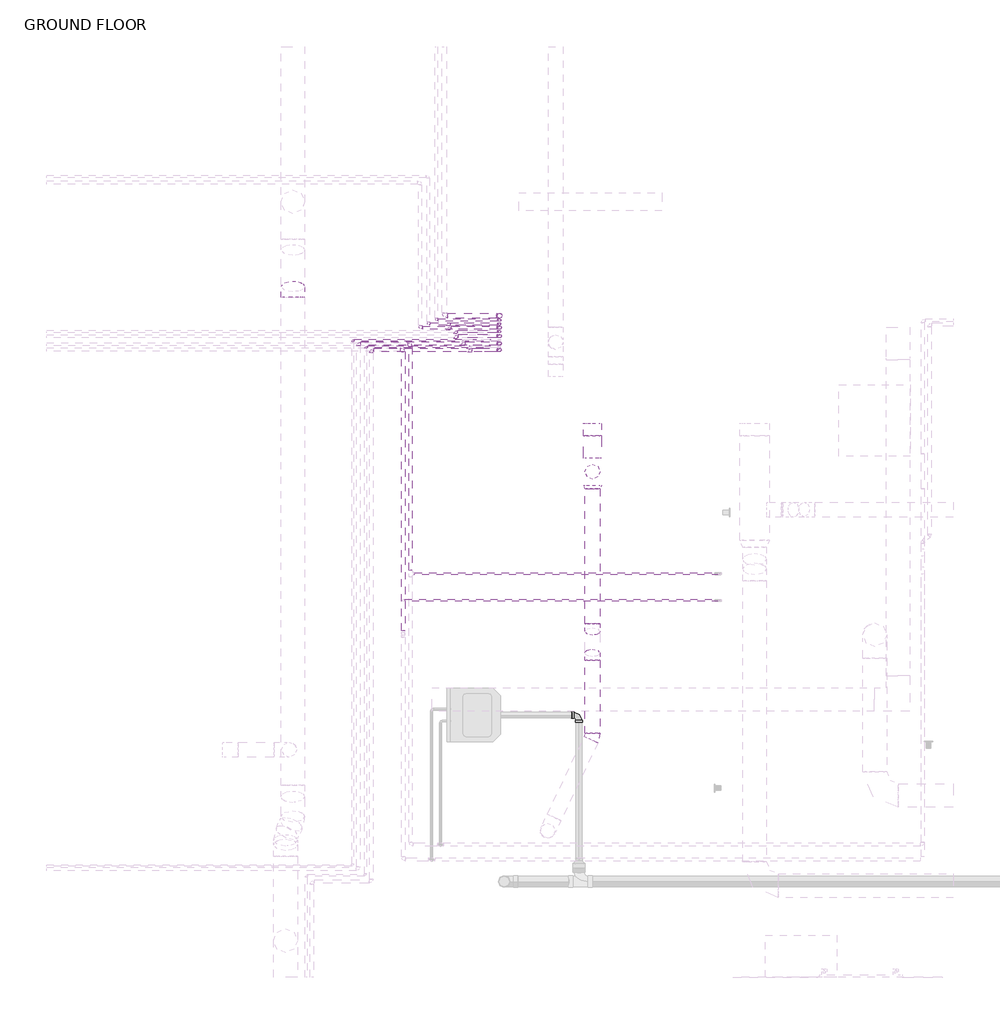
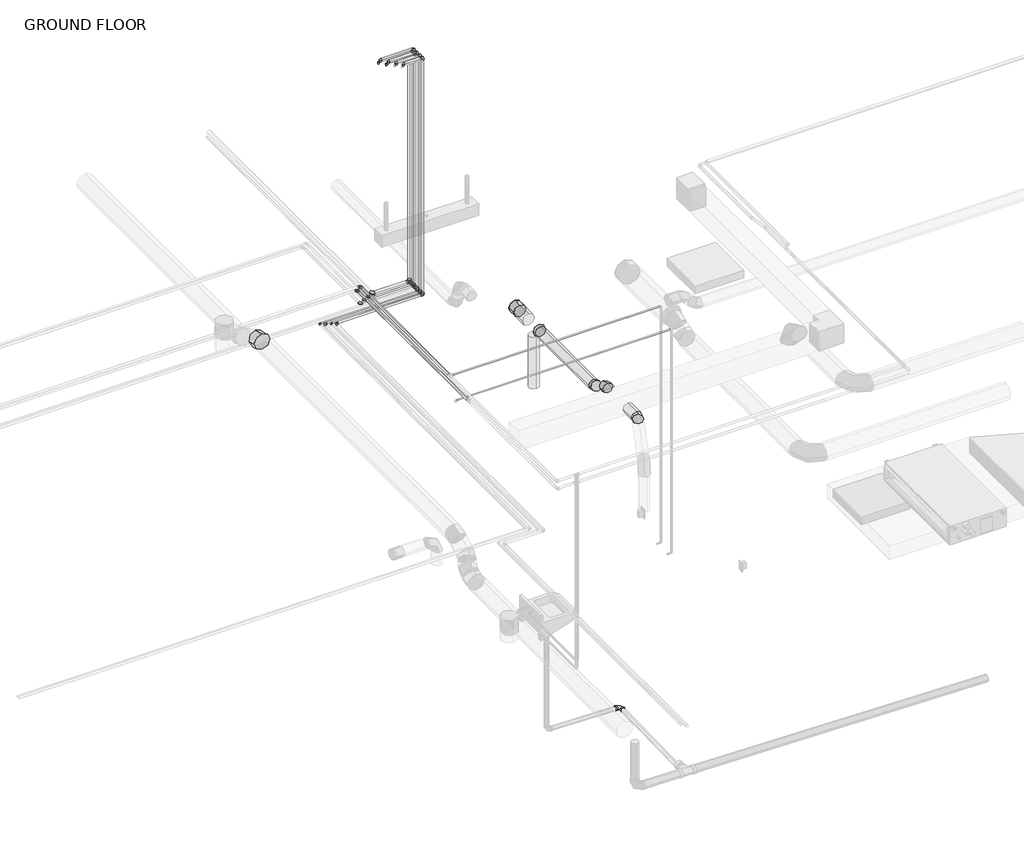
# One storey, part 13 of 21: 33 pipe fittings, 26 pipe segments, 6 duct fittings, 4 duct segments.
"""IFC4 building model written with IfcOpenShell, lengths in millimetres."""

from ifc_helpers import new_model, si_unit, point, frame, frame_2d, origin, place, context, project, spatial, circle_curve, trimmed, segment, composite_curve, outline, extrude, transform, mapped, element, save
from components import round_elbow_1_d_e295ca55, round_elbow_1_d_3986cbc1, round_elbow_1_d_d064e566, round_takeoff_standard_0a2b6d05, round_transition_angle_45_degree_fe5c3047, bend_pvc_sch_40_dwv_standard_3c02e330, elbow_generic_standard_c06ac706, elbow_generic_standard_738589b0, elbow_generic_standard_a088f956, elbow_generic_standard_371413ad

model = new_model("IFC4")

# Units and contexts
model_context = context("Model", 3, world=origin())
ifc_project = project(units=[si_unit("LENGTHUNIT", "METRE", prefix="MILLI")], contexts=[model_context])

# Site, building, storey
site = spatial("IfcSite", under=ifc_project)
building = spatial("IfcBuilding", under=site)
storey = spatial("IfcBuildingStorey", under=building, Name="GROUND FLOOR", Elevation=30480.0)

# Duct fittings
placement = place(None, origin())
round_elbow_1_d_shape = round_elbow_1_d_e295ca55(model_context)
element("IfcDuctFitting", 1, ObjectType="Round Elbow : 1 D", at=placement, inside=storey, context=model_context, shape_type="MappedRepresentation", body=[
    mapped(round_elbow_1_d_shape, transform((-11194.8892107, 7909.4416846, 33401.0), x_axis=(0.0, 1.0, 0.0), y_axis=(0.0, 0.0, -1.0), z_axis=(-1.0, 0.0, 0.0))),
])
round_elbow_1_d_2_shape = round_elbow_1_d_3986cbc1(model_context)
element("IfcDuctFitting", 2, ObjectType="Round Elbow : 1 D", at=placement, inside=storey, context=model_context, shape_type="MappedRepresentation", body=[
    mapped(round_elbow_1_d_2_shape, transform((-8636.6329607, 5039.7195005, 33629.6), x_axis=(0.0, -1.0, 0.0), y_axis=(0.0, 0.0, 1.0), z_axis=(-1.0, 0.0, 0.0))),
])
element("IfcDuctFitting", 3, ObjectType="Round Elbow : 1 D", at=placement, inside=storey, context=model_context, shape_type="MappedRepresentation", body=[
    mapped(round_elbow_1_d_2_shape, transform((-8636.6329607, 4797.7520027, 33769.3), x_axis=(0.0, -0.8660254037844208, 0.5000000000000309), y_axis=(0.0, -0.5000000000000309, -0.8660254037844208), z_axis=(1.0, 0.0, 0.0))),
])
round_elbow_1_d_3_shape = round_elbow_1_d_d064e566(model_context)
element("IfcDuctFitting", 4, ObjectType="Round Elbow : 1 D", at=placement, inside=storey, context=model_context, shape_type="MappedRepresentation", body=[
    mapped(round_elbow_1_d_3_shape, transform((-8636.6329607, 4111.9520027, 33769.3), x_axis=(0.4302942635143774, 0.9026886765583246, 0.0), y_axis=(-0.9026886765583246, 0.4302942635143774, 0.0), z_axis=(0.0, 0.0, 1.0))),
])
round_takeoff_standard_shape = round_takeoff_standard_0a2b6d05(model_context)
element("IfcDuctFitting", 5, ObjectType="Round Takeoff : Standard", at=placement, inside=storey, context=model_context, shape_type="MappedRepresentation", body=[
    mapped(round_takeoff_standard_shape, transform((-8636.6329607, 6781.4293332, 33629.6), x_axis=(0.0, -1.0, 0.0), y_axis=(-1.0, 0.0, 0.0), z_axis=(0.0, 0.0, -1.0))),
])
round_transition_angle_45_degree_shape = round_transition_angle_45_degree_fe5c3047(model_context)
element("IfcDuctFitting", 6, ObjectType="Round Transition - Angle : 45 Degree", at=placement, inside=storey, context=model_context, shape_type="MappedRepresentation", body=[
    mapped(round_transition_angle_45_degree_shape, transform((-8636.6329607, 6258.9195005, 33629.6), x_axis=(0.0, -1.0, 0.0), y_axis=(1.0, 0.0, 0.0), z_axis=(0.0, 0.0, 1.0))),
])

# Duct segments
element("IfcDuctSegment", 7, ObjectType="Taps / Short Radius", at=placement, inside=storey, context=model_context, shape_type="SweptSolid", body=[
    extrude(outline(composite_curve([segment(trimmed(circle_curve(frame_2d((-8636.6329607, 6373.2195005)), 63.5), [point((-8636.6329607, 6309.7195005))], [point((-8700.1329607, 6373.2195005))], False, "CARTESIAN"), True, "CONTINUOUS"), segment(trimmed(circle_curve(frame_2d((-8636.6329607, 6373.2195005)), 63.5), [point((-8700.1329607, 6373.2195005))], [point((-8636.6329607, 6436.7195005))], False, "CARTESIAN"), True, "CONTINUOUS"), segment(trimmed(circle_curve(frame_2d((-8636.6329607, 6373.2195005)), 63.5), [point((-8636.6329607, 6436.7195005))], [point((-8573.1329607, 6373.2195005))], False, "CARTESIAN"), True, "CONTINUOUS"), segment(trimmed(circle_curve(frame_2d((-8636.6329607, 6373.2195005)), 63.5), [point((-8573.1329607, 6373.2195005))], [point((-8636.6329607, 6309.7195005))], False, "CARTESIAN"), True, "CONTINUOUS")], self_intersect=False)), frame((0.0, 0.0, 32816.8), z_axis=(0.0, 0.0, 1.0), x_axis=(1.0, 0.0, 0.0)), (0.0, 0.0, 1.0), 685.8),
])
element("IfcDuctSegment", 8, ObjectType="Taps / Short Radius", at=placement, inside=storey, context=model_context, shape_type="SweptSolid", body=[
    extrude(outline(composite_curve([segment(trimmed(circle_curve(frame_2d((33629.6, -8636.6329607)), 76.2), [point((33629.6, -8712.8329607))], [point((33553.4, -8636.6329607))], False, "CARTESIAN"), True, "CONTINUOUS"), segment(trimmed(circle_curve(frame_2d((33629.6, -8636.6329607)), 76.2), [point((33553.4, -8636.6329607))], [point((33629.6, -8560.4329607))], False, "CARTESIAN"), True, "CONTINUOUS"), segment(trimmed(circle_curve(frame_2d((33629.6, -8636.6329607)), 76.2), [point((33629.6, -8560.4329607))], [point((33705.8, -8636.6329607))], False, "CARTESIAN"), True, "CONTINUOUS"), segment(trimmed(circle_curve(frame_2d((33629.6, -8636.6329607)), 76.2), [point((33705.8, -8636.6329607))], [point((33629.6, -8712.8329607))], False, "CARTESIAN"), True, "CONTINUOUS")], self_intersect=False)), frame((0.0, 6487.5195005, 0.0), z_axis=(0.0, 1.0, 0.0), x_axis=(0.0, 0.0, 1.0)), (0.0, 0.0, 1.0), 192.3098327),
])
element("IfcDuctSegment", 9, ObjectType="Taps / Short Radius", at=placement, inside=storey, context=model_context, shape_type="SweptSolid", body=[
    extrude(outline(composite_curve([segment(trimmed(circle_curve(frame_2d((33629.6, -8636.6329607)), 63.5), [point((33629.6, -8700.1329607))], [point((33566.1, -8636.6329607))], False, "CARTESIAN"), True, "CONTINUOUS"), segment(trimmed(circle_curve(frame_2d((33629.6, -8636.6329607)), 63.5), [point((33566.1, -8636.6329607))], [point((33629.6, -8573.1329607))], False, "CARTESIAN"), True, "CONTINUOUS"), segment(trimmed(circle_curve(frame_2d((33629.6, -8636.6329607)), 63.5), [point((33629.6, -8573.1329607))], [point((33693.1, -8636.6329607))], False, "CARTESIAN"), True, "CONTINUOUS"), segment(trimmed(circle_curve(frame_2d((33629.6, -8636.6329607)), 63.5), [point((33693.1, -8636.6329607))], [point((33629.6, -8700.1329607))], False, "CARTESIAN"), True, "CONTINUOUS")], self_intersect=False)), frame((0.0, 5073.749048, 0.0), z_axis=(0.0, 1.0, 0.0), x_axis=(0.0, 0.0, 1.0)), (0.0, 0.0, 1.0), 1154.5099403),
])
element("IfcDuctSegment", 10, ObjectType="Taps / Short Radius", at=placement, inside=storey, context=model_context, shape_type="SweptSolid", body=[
    extrude(outline(composite_curve([segment(trimmed(circle_curve(frame_2d((33769.3, -8636.6329607)), 63.5), [point((33769.3, -8700.1329607))], [point((33705.8, -8636.6329607))], False, "CARTESIAN"), True, "CONTINUOUS"), segment(trimmed(circle_curve(frame_2d((33769.3, -8636.6329607)), 63.5), [point((33705.8, -8636.6329607))], [point((33769.3, -8573.1329607))], False, "CARTESIAN"), True, "CONTINUOUS"), segment(trimmed(circle_curve(frame_2d((33769.3, -8636.6329607)), 63.5), [point((33769.3, -8573.1329607))], [point((33832.8, -8636.6329607))], False, "CARTESIAN"), True, "CONTINUOUS"), segment(trimmed(circle_curve(frame_2d((33769.3, -8636.6329607)), 63.5), [point((33832.8, -8636.6329607))], [point((33769.3, -8700.1329607))], False, "CARTESIAN"), True, "CONTINUOUS")], self_intersect=False)), frame((0.0, 4140.6731341, 0.0), z_axis=(0.0, 1.0, 0.0), x_axis=(0.0, 0.0, 1.0)), (0.0, 0.0, 1.0), 623.0493212),
])

# Pipe fittings
bend_pvc_sch_40_dwv_standard_shape = bend_pvc_sch_40_dwv_standard_3c02e330(model_context)
element("IfcPipeFitting", 11, ObjectType="Bend - PVC - Sch 40 - DWV : Standard", at=placement, inside=storey, context=model_context, shape_type="MappedRepresentation", body=[
    mapped(bend_pvc_sch_40_dwv_standard_shape, transform((-8752.529012, 4296.7695005, 29857.1048657), x_axis=(0.0, 0.9997637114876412, 0.021737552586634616), y_axis=(-0.9997831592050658, -0.00045266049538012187, 0.02081897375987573), z_axis=(0.020823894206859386, -0.0217328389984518, 0.9995469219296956))),
])
elbow_generic_standard_shape = elbow_generic_standard_c06ac706(model_context)
element("IfcPipeFitting", 12, ObjectType="Elbow - Generic : Standard", at=placement, inside=storey, context=model_context, shape_type="MappedRepresentation", body=[
    mapped(elbow_generic_standard_shape, transform((-10108.9967002, 7600.6601211, 33680.4), x_axis=(0.0, -1.0, 0.0), y_axis=(1.0, 0.0, 0.0), z_axis=(0.0, 0.0, 1.0))),
])
element("IfcPipeFitting", 13, ObjectType="Elbow - Generic : Standard", at=placement, inside=storey, context=model_context, shape_type="MappedRepresentation", body=[
    mapped(elbow_generic_standard_shape, transform((-10635.1515455, 7465.7928353, 33680.4), x_axis=(-1.0, 0.0, 0.0), y_axis=(0.0, -1.0, 0.0), z_axis=(0.0, 0.0, 1.0))),
])
element("IfcPipeFitting", 14, ObjectType="Elbow - Generic : Standard", at=placement, inside=storey, context=model_context, shape_type="MappedRepresentation", body=[
    mapped(elbow_generic_standard_shape, transform((-10524.9642107, 7409.7014345, 33680.4), x_axis=(-1.0, 0.0, 0.0), y_axis=(0.0, -1.0, 0.0), z_axis=(0.0, 0.0, 1.0))),
])
element("IfcPipeFitting", 15, ObjectType="Elbow - Generic : Standard", at=placement, inside=storey, context=model_context, shape_type="MappedRepresentation", body=[
    mapped(elbow_generic_standard_shape, transform((-9429.5892107, 7409.7014345, 33680.4), x_axis=(1.0, 0.0, 0.0), y_axis=(0.0, 0.0, 1.0), z_axis=(0.0, -1.0, 0.0))),
])
element("IfcPipeFitting", 16, ObjectType="Elbow - Generic : Standard", at=placement, inside=storey, context=model_context, shape_type="MappedRepresentation", body=[
    mapped(elbow_generic_standard_shape, transform((-9429.5892107, 7465.7928353, 33680.4), x_axis=(1.0, 0.0, 0.0), y_axis=(0.0, 0.0, 1.0), z_axis=(0.0, -1.0, 0.0))),
])
element("IfcPipeFitting", 17, ObjectType="Elbow - Generic : Standard", at=placement, inside=storey, context=model_context, shape_type="MappedRepresentation", body=[
    mapped(elbow_generic_standard_shape, transform((-9429.5892107, 7600.6601211, 33680.4), x_axis=(1.0, 0.0, 0.0), y_axis=(0.0, 0.0, 1.0), z_axis=(0.0, -1.0, 0.0))),
])
element("IfcPipeFitting", 18, ObjectType="Elbow - Generic : Standard", at=placement, inside=storey, context=model_context, shape_type="MappedRepresentation", body=[
    mapped(elbow_generic_standard_shape, transform((-9429.5892107, 7528.3379884, 33680.4), x_axis=(1.0, 0.0, 0.0), y_axis=(0.0, 0.0, 1.0), z_axis=(0.0, -1.0, 0.0))),
])
element("IfcPipeFitting", 19, ObjectType="Elbow - Generic : Standard", at=placement, inside=storey, context=model_context, shape_type="MappedRepresentation", body=[
    mapped(elbow_generic_standard_shape, transform((-9429.5892107, 7600.6601211, 36830.0), x_axis=(0.0, 0.0, 1.0), y_axis=(-1.0, 0.0, 0.0), z_axis=(0.0, -1.0, 0.0))),
])
element("IfcPipeFitting", 20, ObjectType="Elbow - Generic : Standard", at=placement, inside=storey, context=model_context, shape_type="MappedRepresentation", body=[
    mapped(elbow_generic_standard_shape, transform((-9866.3353043, 7600.6601211, 36830.0), x_axis=(-1.0, 0.0, 0.0), y_axis=(0.0, -1.0, 0.0), z_axis=(0.0, 0.0, 1.0))),
])
element("IfcPipeFitting", 21, ObjectType="Elbow - Generic : Standard", at=placement, inside=storey, context=model_context, shape_type="MappedRepresentation", body=[
    mapped(elbow_generic_standard_shape, transform((-9429.5892107, 7528.3379884, 36830.0), x_axis=(0.0, 0.0, 1.0), y_axis=(-1.0, 0.0, 0.0), z_axis=(0.0, -1.0, 0.0))),
])
element("IfcPipeFitting", 22, ObjectType="Elbow - Generic : Standard", at=placement, inside=storey, context=model_context, shape_type="MappedRepresentation", body=[
    mapped(elbow_generic_standard_shape, transform((-9806.3353043, 7528.3379884, 36830.0), x_axis=(-1.0, 0.0, 0.0), y_axis=(0.0, -1.0, 0.0), z_axis=(0.0, 0.0, 1.0))),
])
element("IfcPipeFitting", 23, ObjectType="Elbow - Generic : Standard", at=placement, inside=storey, context=model_context, shape_type="MappedRepresentation", body=[
    mapped(elbow_generic_standard_shape, transform((-9429.5892107, 7465.7928353, 36830.0), x_axis=(0.0, 0.0, 1.0), y_axis=(-1.0, 0.0, 0.0), z_axis=(0.0, -1.0, 0.0))),
])
element("IfcPipeFitting", 24, ObjectType="Elbow - Generic : Standard", at=placement, inside=storey, context=model_context, shape_type="MappedRepresentation", body=[
    mapped(elbow_generic_standard_shape, transform((-9746.3353043, 7465.7928353, 36830.0), x_axis=(-1.0, 0.0, 0.0), y_axis=(0.0, -1.0, 0.0), z_axis=(0.0, 0.0, 1.0))),
])
element("IfcPipeFitting", 25, ObjectType="Elbow - Generic : Standard", at=placement, inside=storey, context=model_context, shape_type="MappedRepresentation", body=[
    mapped(elbow_generic_standard_shape, transform((-9429.5892107, 7409.7014345, 36830.0), x_axis=(0.0, 0.0, 1.0), y_axis=(-1.0, 0.0, 0.0), z_axis=(0.0, -1.0, 0.0))),
])
element("IfcPipeFitting", 26, ObjectType="Elbow - Generic : Standard", at=placement, inside=storey, context=model_context, shape_type="MappedRepresentation", body=[
    mapped(elbow_generic_standard_shape, transform((-9686.3353043, 7409.7014345, 36830.0), x_axis=(-1.0, 0.0, 0.0), y_axis=(0.0, -1.0, 0.0), z_axis=(0.0, 0.0, 1.0))),
])
element("IfcPipeFitting", 27, ObjectType="Elbow - Generic : Standard", at=placement, inside=storey, context=model_context, shape_type="MappedRepresentation", body=[
    mapped(elbow_generic_standard_shape, transform((-10189.2079607, 7460.2718518, 34023.3), x_axis=(0.0, 1.0, 0.0), y_axis=(-1.0, 0.0, 0.0), z_axis=(0.0, 0.0, 1.0))),
])
element("IfcPipeFitting", 28, ObjectType="Elbow - Generic : Standard", at=placement, inside=storey, context=model_context, shape_type="MappedRepresentation", body=[
    mapped(elbow_generic_standard_shape, transform((-10252.7079607, 7415.8218518, 34023.3), x_axis=(0.0, 1.0, 0.0), y_axis=(-1.0, 0.0, 0.0), z_axis=(0.0, 0.0, 1.0))),
])
elbow_generic_standard_2_shape = elbow_generic_standard_738589b0(model_context)
element("IfcPipeFitting", 29, ObjectType="Elbow - Generic : Standard", at=placement, inside=storey, context=model_context, shape_type="MappedRepresentation", body=[
    mapped(elbow_generic_standard_2_shape, transform((-9971.0694154, 7666.6322539, 33680.4), x_axis=(0.0, -1.0, 0.0), y_axis=(1.0, 0.0, 0.0), z_axis=(0.0, 0.0, 1.0))),
])
element("IfcPipeFitting", 30, ObjectType="Elbow - Generic : Standard", at=placement, inside=storey, context=model_context, shape_type="MappedRepresentation", body=[
    mapped(elbow_generic_standard_2_shape, transform((-10040.0330578, 7633.6461875, 33680.4), x_axis=(0.0, -1.0, 0.0), y_axis=(1.0, 0.0, 0.0), z_axis=(0.0, 0.0, 1.0))),
])
element("IfcPipeFitting", 31, ObjectType="Elbow - Generic : Standard", at=placement, inside=storey, context=model_context, shape_type="MappedRepresentation", body=[
    mapped(elbow_generic_standard_2_shape, transform((-9429.5892107, 7633.6461875, 33680.4), x_axis=(1.0, 0.0, 0.0), y_axis=(0.0, 0.0, 1.0), z_axis=(0.0, -1.0, 0.0))),
])
element("IfcPipeFitting", 32, ObjectType="Elbow - Generic : Standard", at=placement, inside=storey, context=model_context, shape_type="MappedRepresentation", body=[
    mapped(elbow_generic_standard_2_shape, transform((-9429.5892107, 7666.6322539, 33680.4), x_axis=(1.0, 0.0, 0.0), y_axis=(0.0, 0.0, 1.0), z_axis=(0.0, -1.0, 0.0))),
])
element("IfcPipeFitting", 33, ObjectType="Elbow - Generic : Standard", at=placement, inside=storey, context=model_context, shape_type="MappedRepresentation", body=[
    mapped(elbow_generic_standard_2_shape, transform((-9429.5892107, 7567.6740548, 33680.4), x_axis=(1.0, 0.0, 0.0), y_axis=(0.0, 0.0, 1.0), z_axis=(0.0, -1.0, 0.0))),
])
element("IfcPipeFitting", 34, ObjectType="Elbow - Generic : Standard", at=placement, inside=storey, context=model_context, shape_type="MappedRepresentation", body=[
    mapped(elbow_generic_standard_2_shape, transform((-9429.5892107, 7633.6461875, 36779.2), x_axis=(0.0, 0.0, 1.0), y_axis=(-1.0, 0.0, 0.0), z_axis=(0.0, -1.0, 0.0))),
])
element("IfcPipeFitting", 35, ObjectType="Elbow - Generic : Standard", at=placement, inside=storey, context=model_context, shape_type="MappedRepresentation", body=[
    mapped(elbow_generic_standard_2_shape, transform((-9866.3353043, 7633.6461875, 36779.2), x_axis=(-1.0, 0.0, 0.0), y_axis=(0.0, -1.0, 0.0), z_axis=(0.0, 0.0, 1.0))),
])
element("IfcPipeFitting", 36, ObjectType="Elbow - Generic : Standard", at=placement, inside=storey, context=model_context, shape_type="MappedRepresentation", body=[
    mapped(elbow_generic_standard_2_shape, transform((-9429.5892107, 7567.6740548, 36779.2), x_axis=(0.0, 0.0, 1.0), y_axis=(-1.0, 0.0, 0.0), z_axis=(0.0, -1.0, 0.0))),
])
element("IfcPipeFitting", 37, ObjectType="Elbow - Generic : Standard", at=placement, inside=storey, context=model_context, shape_type="MappedRepresentation", body=[
    mapped(elbow_generic_standard_2_shape, transform((-9806.3353043, 7567.6740548, 36779.2), x_axis=(-1.0, 0.0, 0.0), y_axis=(0.0, -1.0, 0.0), z_axis=(0.0, 0.0, 1.0))),
])
elbow_generic_standard_3_shape = elbow_generic_standard_a088f956(model_context)
element("IfcPipeFitting", 38, ObjectType="Elbow - Generic : Standard", at=placement, inside=storey, context=model_context, shape_type="MappedRepresentation", body=[
    mapped(elbow_generic_standard_3_shape, transform((-10682.7765455, 7495.3519221, 33680.4), x_axis=(-1.0, 0.0, 0.0), y_axis=(0.0, -1.0, 0.0), z_axis=(0.0, 0.0, 1.0))),
])
element("IfcPipeFitting", 39, ObjectType="Elbow - Generic : Standard", at=placement, inside=storey, context=model_context, shape_type="MappedRepresentation", body=[
    mapped(elbow_generic_standard_3_shape, transform((-10572.5892107, 7438.5314076, 33680.4), x_axis=(-1.0, 0.0, 0.0), y_axis=(0.0, -1.0, 0.0), z_axis=(0.0, 0.0, 1.0))),
])
element("IfcPipeFitting", 40, ObjectType="Elbow - Generic : Standard", at=placement, inside=storey, context=model_context, shape_type="MappedRepresentation", body=[
    mapped(elbow_generic_standard_3_shape, transform((-9429.5892107, 7438.5314076, 33680.4), x_axis=(1.0, 0.0, 0.0), y_axis=(0.0, 0.0, 1.0), z_axis=(0.0, -1.0, 0.0))),
])
element("IfcPipeFitting", 41, ObjectType="Elbow - Generic : Standard", at=placement, inside=storey, context=model_context, shape_type="MappedRepresentation", body=[
    mapped(elbow_generic_standard_3_shape, transform((-9429.5892107, 7495.3519221, 33680.4), x_axis=(1.0, 0.0, 0.0), y_axis=(0.0, 0.0, 1.0), z_axis=(0.0, -1.0, 0.0))),
])
elbow_generic_standard_4_shape = elbow_generic_standard_371413ad(model_context)
element("IfcPipeFitting", 42, ObjectType="Elbow - Generic : Standard", at=placement, inside=storey, context=model_context, shape_type="MappedRepresentation", body=[
    mapped(elbow_generic_standard_4_shape, transform((-9902.105773, 7703.4915784, 33680.4), x_axis=(0.0, -1.0, 0.0), y_axis=(1.0, 0.0, 0.0), z_axis=(0.0, 0.0, 1.0))),
])
element("IfcPipeFitting", 43, ObjectType="Elbow - Generic : Standard", at=placement, inside=storey, context=model_context, shape_type="MappedRepresentation", body=[
    mapped(elbow_generic_standard_4_shape, transform((-9429.5892107, 7703.4915784, 33680.4), x_axis=(1.0, 0.0, 0.0), y_axis=(0.0, 0.0, 1.0), z_axis=(0.0, -1.0, 0.0))),
])

# Pipe segments
element("IfcPipeSegment", 44, ObjectType="Copper", at=placement, inside=storey, context=model_context, shape_type="SweptSolid", body=[
    extrude(outline(composite_curve([segment(trimmed(circle_curve(frame_2d((7703.4915784, 33680.4)), 20.6375), [point((7682.8540784, 33680.4))], [point((7703.4915784, 33701.0375))], False, "CARTESIAN"), True, "CONTINUOUS"), segment(trimmed(circle_curve(frame_2d((7703.4915784, 33680.4)), 20.6375), [point((7703.4915784, 33701.0375))], [point((7724.1290784, 33680.4))], False, "CARTESIAN"), True, "CONTINUOUS"), segment(trimmed(circle_curve(frame_2d((7703.4915784, 33680.4)), 20.6375), [point((7724.1290784, 33680.4))], [point((7703.4915784, 33659.7625))], False, "CARTESIAN"), True, "CONTINUOUS"), segment(trimmed(circle_curve(frame_2d((7703.4915784, 33680.4)), 20.6375), [point((7703.4915784, 33659.7625))], [point((7682.8540784, 33680.4))], False, "CARTESIAN"), True, "CONTINUOUS")], self_intersect=False)), frame((-9875.118273, 0.0, 0.0), z_axis=(1.0, 0.0, 0.0), x_axis=(0.0, 1.0, 0.0)), (0.0, 0.0, 1.0), 418.5415623),
])
element("IfcPipeSegment", 45, ObjectType="Copper", at=placement, inside=storey, context=model_context, shape_type="SweptSolid", body=[
    extrude(outline(composite_curve([segment(trimmed(circle_curve(frame_2d((7666.6322539, 33680.4)), 11.1125), [point((7655.5197539, 33680.4))], [point((7666.6322539, 33691.5125))], False, "CARTESIAN"), True, "CONTINUOUS"), segment(trimmed(circle_curve(frame_2d((7666.6322539, 33680.4)), 11.1125), [point((7666.6322539, 33691.5125))], [point((7677.7447539, 33680.4))], False, "CARTESIAN"), True, "CONTINUOUS"), segment(trimmed(circle_curve(frame_2d((7666.6322539, 33680.4)), 11.1125), [point((7677.7447539, 33680.4))], [point((7666.6322539, 33669.2875))], False, "CARTESIAN"), True, "CONTINUOUS"), segment(trimmed(circle_curve(frame_2d((7666.6322539, 33680.4)), 11.1125), [point((7666.6322539, 33669.2875))], [point((7655.5197539, 33680.4))], False, "CARTESIAN"), True, "CONTINUOUS")], self_intersect=False)), frame((-9953.6069154, 0.0, 0.0), z_axis=(1.0, 0.0, 0.0), x_axis=(0.0, 1.0, 0.0)), (0.0, 0.0, 1.0), 506.5552047),
])
element("IfcPipeSegment", 46, ObjectType="Copper", at=placement, inside=storey, context=model_context, shape_type="SweptSolid", body=[
    extrude(outline(composite_curve([segment(trimmed(circle_curve(frame_2d((7600.6601211, 33680.4)), 14.2875), [point((7586.3726211, 33680.4))], [point((7600.6601211, 33694.6875))], False, "CARTESIAN"), True, "CONTINUOUS"), segment(trimmed(circle_curve(frame_2d((7600.6601211, 33680.4)), 14.2875), [point((7600.6601211, 33694.6875))], [point((7614.9476211, 33680.4))], False, "CARTESIAN"), True, "CONTINUOUS"), segment(trimmed(circle_curve(frame_2d((7600.6601211, 33680.4)), 14.2875), [point((7614.9476211, 33680.4))], [point((7600.6601211, 33666.1125))], False, "CARTESIAN"), True, "CONTINUOUS"), segment(trimmed(circle_curve(frame_2d((7600.6601211, 33680.4)), 14.2875), [point((7600.6601211, 33666.1125))], [point((7586.3726211, 33680.4))], False, "CARTESIAN"), True, "CONTINUOUS")], self_intersect=False)), frame((-10088.3592002, 0.0, 0.0), z_axis=(1.0, 0.0, 0.0), x_axis=(0.0, 1.0, 0.0)), (0.0, 0.0, 1.0), 638.1324895),
])
element("IfcPipeSegment", 47, ObjectType="Copper", at=placement, inside=storey, context=model_context, shape_type="SweptSolid", body=[
    extrude(outline(composite_curve([segment(trimmed(circle_curve(frame_2d((7633.6461875, 33680.4)), 11.1125), [point((7622.5336875, 33680.4))], [point((7633.6461875, 33691.5125))], False, "CARTESIAN"), True, "CONTINUOUS"), segment(trimmed(circle_curve(frame_2d((7633.6461875, 33680.4)), 11.1125), [point((7633.6461875, 33691.5125))], [point((7644.7586875, 33680.4))], False, "CARTESIAN"), True, "CONTINUOUS"), segment(trimmed(circle_curve(frame_2d((7633.6461875, 33680.4)), 11.1125), [point((7644.7586875, 33680.4))], [point((7633.6461875, 33669.2875))], False, "CARTESIAN"), True, "CONTINUOUS"), segment(trimmed(circle_curve(frame_2d((7633.6461875, 33680.4)), 11.1125), [point((7633.6461875, 33669.2875))], [point((7622.5336875, 33680.4))], False, "CARTESIAN"), True, "CONTINUOUS")], self_intersect=False)), frame((-10022.5705578, 0.0, 0.0), z_axis=(1.0, 0.0, 0.0), x_axis=(0.0, 1.0, 0.0)), (0.0, 0.0, 1.0), 575.5188471),
])
element("IfcPipeSegment", 48, ObjectType="Copper", at=placement, inside=storey, context=model_context, shape_type="SweptSolid", body=[
    extrude(outline(composite_curve([segment(trimmed(circle_curve(frame_2d((7495.3519221, 33680.4)), 7.9375), [point((7487.4144221, 33680.4))], [point((7495.3519221, 33688.3375))], False, "CARTESIAN"), True, "CONTINUOUS"), segment(trimmed(circle_curve(frame_2d((7495.3519221, 33680.4)), 7.9375), [point((7495.3519221, 33688.3375))], [point((7503.2894221, 33680.4))], False, "CARTESIAN"), True, "CONTINUOUS"), segment(trimmed(circle_curve(frame_2d((7495.3519221, 33680.4)), 7.9375), [point((7503.2894221, 33680.4))], [point((7495.3519221, 33672.4625))], False, "CARTESIAN"), True, "CONTINUOUS"), segment(trimmed(circle_curve(frame_2d((7495.3519221, 33680.4)), 7.9375), [point((7495.3519221, 33672.4625))], [point((7487.4144221, 33680.4))], False, "CARTESIAN"), True, "CONTINUOUS")], self_intersect=False)), frame((-10668.4890455, 0.0, 0.0), z_axis=(1.0, 0.0, 0.0), x_axis=(0.0, 1.0, 0.0)), (0.0, 0.0, 1.0), 1224.6123348),
])
element("IfcPipeSegment", 49, ObjectType="Copper", at=placement, inside=storey, context=model_context, shape_type="SweptSolid", body=[
    extrude(outline(composite_curve([segment(trimmed(circle_curve(frame_2d((7465.7928353, 33680.4)), 14.2875), [point((7451.5053353, 33680.4))], [point((7465.7928353, 33694.6875))], False, "CARTESIAN"), True, "CONTINUOUS"), segment(trimmed(circle_curve(frame_2d((7465.7928353, 33680.4)), 14.2875), [point((7465.7928353, 33694.6875))], [point((7480.0803353, 33680.4))], False, "CARTESIAN"), True, "CONTINUOUS"), segment(trimmed(circle_curve(frame_2d((7465.7928353, 33680.4)), 14.2875), [point((7480.0803353, 33680.4))], [point((7465.7928353, 33666.1125))], False, "CARTESIAN"), True, "CONTINUOUS"), segment(trimmed(circle_curve(frame_2d((7465.7928353, 33680.4)), 14.2875), [point((7465.7928353, 33666.1125))], [point((7451.5053353, 33680.4))], False, "CARTESIAN"), True, "CONTINUOUS")], self_intersect=False)), frame((-10614.5140455, 0.0, 0.0), z_axis=(1.0, 0.0, 0.0), x_axis=(0.0, 1.0, 0.0)), (0.0, 0.0, 1.0), 1164.2873348),
])
element("IfcPipeSegment", 50, ObjectType="Copper", at=placement, inside=storey, context=model_context, shape_type="SweptSolid", body=[
    extrude(outline(composite_curve([segment(trimmed(circle_curve(frame_2d((7438.5314076, 33680.4)), 7.9375), [point((7430.5939076, 33680.4))], [point((7438.5314076, 33688.3375))], False, "CARTESIAN"), True, "CONTINUOUS"), segment(trimmed(circle_curve(frame_2d((7438.5314076, 33680.4)), 7.9375), [point((7438.5314076, 33688.3375))], [point((7446.4689076, 33680.4))], False, "CARTESIAN"), True, "CONTINUOUS"), segment(trimmed(circle_curve(frame_2d((7438.5314076, 33680.4)), 7.9375), [point((7446.4689076, 33680.4))], [point((7438.5314076, 33672.4625))], False, "CARTESIAN"), True, "CONTINUOUS"), segment(trimmed(circle_curve(frame_2d((7438.5314076, 33680.4)), 7.9375), [point((7438.5314076, 33672.4625))], [point((7430.5939076, 33680.4))], False, "CARTESIAN"), True, "CONTINUOUS")], self_intersect=False)), frame((-10558.3017107, 0.0, 0.0), z_axis=(1.0, 0.0, 0.0), x_axis=(0.0, 1.0, 0.0)), (0.0, 0.0, 1.0), 1114.425),
])
element("IfcPipeSegment", 51, ObjectType="Copper", at=placement, inside=storey, context=model_context, shape_type="SweptSolid", body=[
    extrude(outline(composite_curve([segment(trimmed(circle_curve(frame_2d((7409.7014345, 33680.4)), 14.2875), [point((7395.4139345, 33680.4))], [point((7409.7014345, 33694.6875))], False, "CARTESIAN"), True, "CONTINUOUS"), segment(trimmed(circle_curve(frame_2d((7409.7014345, 33680.4)), 14.2875), [point((7409.7014345, 33694.6875))], [point((7423.9889345, 33680.4))], False, "CARTESIAN"), True, "CONTINUOUS"), segment(trimmed(circle_curve(frame_2d((7409.7014345, 33680.4)), 14.2875), [point((7423.9889345, 33680.4))], [point((7409.7014345, 33666.1125))], False, "CARTESIAN"), True, "CONTINUOUS"), segment(trimmed(circle_curve(frame_2d((7409.7014345, 33680.4)), 14.2875), [point((7409.7014345, 33666.1125))], [point((7395.4139345, 33680.4))], False, "CARTESIAN"), True, "CONTINUOUS")], self_intersect=False)), frame((-10504.3267107, 0.0, 0.0), z_axis=(1.0, 0.0, 0.0), x_axis=(0.0, 1.0, 0.0)), (0.0, 0.0, 1.0), 1054.1),
])
element("IfcPipeSegment", 52, ObjectType="Copper", at=placement, inside=storey, context=model_context, shape_type="SweptSolid", body=[
    extrude(outline(composite_curve([segment(trimmed(circle_curve(frame_2d((-9429.5892107, 7703.4915784)), 20.6375), [point((-9450.2267107, 7703.4915784))], [point((-9429.5892107, 7724.1290784))], False, "CARTESIAN"), True, "CONTINUOUS"), segment(trimmed(circle_curve(frame_2d((-9429.5892107, 7703.4915784)), 20.6375), [point((-9429.5892107, 7724.1290784))], [point((-9408.9517107, 7703.4915784))], False, "CARTESIAN"), True, "CONTINUOUS"), segment(trimmed(circle_curve(frame_2d((-9429.5892107, 7703.4915784)), 20.6375), [point((-9408.9517107, 7703.4915784))], [point((-9429.5892107, 7682.8540784))], False, "CARTESIAN"), True, "CONTINUOUS"), segment(trimmed(circle_curve(frame_2d((-9429.5892107, 7703.4915784)), 20.6375), [point((-9429.5892107, 7682.8540784))], [point((-9450.2267107, 7703.4915784))], False, "CARTESIAN"), True, "CONTINUOUS")], self_intersect=False)), frame((0.0, 0.0, 33707.3875), z_axis=(0.0, 0.0, 1.0), x_axis=(1.0, 0.0, 0.0)), (0.0, 0.0, 1.0), 3021.0125),
])
element("IfcPipeSegment", 53, ObjectType="Copper", at=placement, inside=storey, context=model_context, shape_type="SweptSolid", body=[
    extrude(outline(composite_curve([segment(trimmed(circle_curve(frame_2d((-9429.5892107, 7666.6322539)), 11.1125), [point((-9440.7017107, 7666.6322539))], [point((-9429.5892107, 7677.7447539))], False, "CARTESIAN"), True, "CONTINUOUS"), segment(trimmed(circle_curve(frame_2d((-9429.5892107, 7666.6322539)), 11.1125), [point((-9429.5892107, 7677.7447539))], [point((-9418.4767107, 7666.6322539))], False, "CARTESIAN"), True, "CONTINUOUS"), segment(trimmed(circle_curve(frame_2d((-9429.5892107, 7666.6322539)), 11.1125), [point((-9418.4767107, 7666.6322539))], [point((-9429.5892107, 7655.5197539))], False, "CARTESIAN"), True, "CONTINUOUS"), segment(trimmed(circle_curve(frame_2d((-9429.5892107, 7666.6322539)), 11.1125), [point((-9429.5892107, 7655.5197539))], [point((-9440.7017107, 7666.6322539))], False, "CARTESIAN"), True, "CONTINUOUS")], self_intersect=False)), frame((0.0, 0.0, 33697.8625), z_axis=(0.0, 0.0, 1.0), x_axis=(1.0, 0.0, 0.0)), (0.0, 0.0, 1.0), 3030.5375),
])
element("IfcPipeSegment", 54, ObjectType="Copper", at=placement, inside=storey, context=model_context, shape_type="SweptSolid", body=[
    extrude(outline(composite_curve([segment(trimmed(circle_curve(frame_2d((-9429.5892107, 7600.6601211)), 14.2875), [point((-9443.8767107, 7600.6601211))], [point((-9429.5892107, 7614.9476211))], False, "CARTESIAN"), True, "CONTINUOUS"), segment(trimmed(circle_curve(frame_2d((-9429.5892107, 7600.6601211)), 14.2875), [point((-9429.5892107, 7614.9476211))], [point((-9415.3017107, 7600.6601211))], False, "CARTESIAN"), True, "CONTINUOUS"), segment(trimmed(circle_curve(frame_2d((-9429.5892107, 7600.6601211)), 14.2875), [point((-9415.3017107, 7600.6601211))], [point((-9429.5892107, 7586.3726211))], False, "CARTESIAN"), True, "CONTINUOUS"), segment(trimmed(circle_curve(frame_2d((-9429.5892107, 7600.6601211)), 14.2875), [point((-9429.5892107, 7586.3726211))], [point((-9443.8767107, 7600.6601211))], False, "CARTESIAN"), True, "CONTINUOUS")], self_intersect=False)), frame((0.0, 0.0, 33701.0375), z_axis=(0.0, 0.0, 1.0), x_axis=(1.0, 0.0, 0.0)), (0.0, 0.0, 1.0), 3108.325),
])
element("IfcPipeSegment", 55, ObjectType="Copper", at=placement, inside=storey, context=model_context, shape_type="SweptSolid", body=[
    extrude(outline(composite_curve([segment(trimmed(circle_curve(frame_2d((7600.6601211, 36830.0)), 14.2875), [point((7614.9476211, 36830.0))], [point((7600.6601211, 36815.7125))], False, "CARTESIAN"), True, "CONTINUOUS"), segment(trimmed(circle_curve(frame_2d((7600.6601211, 36830.0)), 14.2875), [point((7600.6601211, 36815.7125))], [point((7586.3726211, 36830.0))], False, "CARTESIAN"), True, "CONTINUOUS"), segment(trimmed(circle_curve(frame_2d((7600.6601211, 36830.0)), 14.2875), [point((7586.3726211, 36830.0))], [point((7600.6601211, 36844.2875))], False, "CARTESIAN"), True, "CONTINUOUS"), segment(trimmed(circle_curve(frame_2d((7600.6601211, 36830.0)), 14.2875), [point((7600.6601211, 36844.2875))], [point((7614.9476211, 36830.0))], False, "CARTESIAN"), True, "CONTINUOUS")], self_intersect=False)), frame((-9845.6978043, 0.0, 0.0), z_axis=(1.0, 0.0, 0.0), x_axis=(0.0, 1.0, 0.0)), (0.0, 0.0, 1.0), 395.4710936),
])
element("IfcPipeSegment", 56, ObjectType="Copper", at=placement, inside=storey, context=model_context, shape_type="SweptSolid", body=[
    extrude(outline(composite_curve([segment(trimmed(circle_curve(frame_2d((-9429.5892107, 7528.3379884)), 14.2875), [point((-9443.8767107, 7528.3379884))], [point((-9429.5892107, 7542.6254884))], False, "CARTESIAN"), True, "CONTINUOUS"), segment(trimmed(circle_curve(frame_2d((-9429.5892107, 7528.3379884)), 14.2875), [point((-9429.5892107, 7542.6254884))], [point((-9415.3017107, 7528.3379884))], False, "CARTESIAN"), True, "CONTINUOUS"), segment(trimmed(circle_curve(frame_2d((-9429.5892107, 7528.3379884)), 14.2875), [point((-9415.3017107, 7528.3379884))], [point((-9429.5892107, 7514.0504884))], False, "CARTESIAN"), True, "CONTINUOUS"), segment(trimmed(circle_curve(frame_2d((-9429.5892107, 7528.3379884)), 14.2875), [point((-9429.5892107, 7514.0504884))], [point((-9443.8767107, 7528.3379884))], False, "CARTESIAN"), True, "CONTINUOUS")], self_intersect=False)), frame((0.0, 0.0, 33701.0375), z_axis=(0.0, 0.0, 1.0), x_axis=(1.0, 0.0, 0.0)), (0.0, 0.0, 1.0), 3108.325),
])
element("IfcPipeSegment", 57, ObjectType="Copper", at=placement, inside=storey, context=model_context, shape_type="SweptSolid", body=[
    extrude(outline(composite_curve([segment(trimmed(circle_curve(frame_2d((7528.3379884, 36830.0)), 14.2875), [point((7542.6254884, 36830.0))], [point((7528.3379884, 36815.7125))], False, "CARTESIAN"), True, "CONTINUOUS"), segment(trimmed(circle_curve(frame_2d((7528.3379884, 36830.0)), 14.2875), [point((7528.3379884, 36815.7125))], [point((7514.0504884, 36830.0))], False, "CARTESIAN"), True, "CONTINUOUS"), segment(trimmed(circle_curve(frame_2d((7528.3379884, 36830.0)), 14.2875), [point((7514.0504884, 36830.0))], [point((7528.3379884, 36844.2875))], False, "CARTESIAN"), True, "CONTINUOUS"), segment(trimmed(circle_curve(frame_2d((7528.3379884, 36830.0)), 14.2875), [point((7528.3379884, 36844.2875))], [point((7542.6254884, 36830.0))], False, "CARTESIAN"), True, "CONTINUOUS")], self_intersect=False)), frame((-9785.6978043, 0.0, 0.0), z_axis=(1.0, 0.0, 0.0), x_axis=(0.0, 1.0, 0.0)), (0.0, 0.0, 1.0), 335.4710936),
])
element("IfcPipeSegment", 58, ObjectType="Copper", at=placement, inside=storey, context=model_context, shape_type="SweptSolid", body=[
    extrude(outline(composite_curve([segment(trimmed(circle_curve(frame_2d((-9429.5892107, 7465.7928353)), 14.2875), [point((-9443.8767107, 7465.7928353))], [point((-9429.5892107, 7480.0803353))], False, "CARTESIAN"), True, "CONTINUOUS"), segment(trimmed(circle_curve(frame_2d((-9429.5892107, 7465.7928353)), 14.2875), [point((-9429.5892107, 7480.0803353))], [point((-9415.3017107, 7465.7928353))], False, "CARTESIAN"), True, "CONTINUOUS"), segment(trimmed(circle_curve(frame_2d((-9429.5892107, 7465.7928353)), 14.2875), [point((-9415.3017107, 7465.7928353))], [point((-9429.5892107, 7451.5053353))], False, "CARTESIAN"), True, "CONTINUOUS"), segment(trimmed(circle_curve(frame_2d((-9429.5892107, 7465.7928353)), 14.2875), [point((-9429.5892107, 7451.5053353))], [point((-9443.8767107, 7465.7928353))], False, "CARTESIAN"), True, "CONTINUOUS")], self_intersect=False)), frame((0.0, 0.0, 33701.0375), z_axis=(0.0, 0.0, 1.0), x_axis=(1.0, 0.0, 0.0)), (0.0, 0.0, 1.0), 3108.325),
])
element("IfcPipeSegment", 59, ObjectType="Copper", at=placement, inside=storey, context=model_context, shape_type="SweptSolid", body=[
    extrude(outline(composite_curve([segment(trimmed(circle_curve(frame_2d((7465.7928353, 36830.0)), 14.2875), [point((7480.0803353, 36830.0))], [point((7465.7928353, 36815.7125))], False, "CARTESIAN"), True, "CONTINUOUS"), segment(trimmed(circle_curve(frame_2d((7465.7928353, 36830.0)), 14.2875), [point((7465.7928353, 36815.7125))], [point((7451.5053353, 36830.0))], False, "CARTESIAN"), True, "CONTINUOUS"), segment(trimmed(circle_curve(frame_2d((7465.7928353, 36830.0)), 14.2875), [point((7451.5053353, 36830.0))], [point((7465.7928353, 36844.2875))], False, "CARTESIAN"), True, "CONTINUOUS"), segment(trimmed(circle_curve(frame_2d((7465.7928353, 36830.0)), 14.2875), [point((7465.7928353, 36844.2875))], [point((7480.0803353, 36830.0))], False, "CARTESIAN"), True, "CONTINUOUS")], self_intersect=False)), frame((-9725.6978043, 0.0, 0.0), z_axis=(1.0, 0.0, 0.0), x_axis=(0.0, 1.0, 0.0)), (0.0, 0.0, 1.0), 275.4710936),
])
element("IfcPipeSegment", 60, ObjectType="Copper", at=placement, inside=storey, context=model_context, shape_type="SweptSolid", body=[
    extrude(outline(composite_curve([segment(trimmed(circle_curve(frame_2d((-9429.5892107, 7409.7014345)), 14.2875), [point((-9443.8767107, 7409.7014345))], [point((-9429.5892107, 7423.9889345))], False, "CARTESIAN"), True, "CONTINUOUS"), segment(trimmed(circle_curve(frame_2d((-9429.5892107, 7409.7014345)), 14.2875), [point((-9429.5892107, 7423.9889345))], [point((-9415.3017107, 7409.7014345))], False, "CARTESIAN"), True, "CONTINUOUS"), segment(trimmed(circle_curve(frame_2d((-9429.5892107, 7409.7014345)), 14.2875), [point((-9415.3017107, 7409.7014345))], [point((-9429.5892107, 7395.4139345))], False, "CARTESIAN"), True, "CONTINUOUS"), segment(trimmed(circle_curve(frame_2d((-9429.5892107, 7409.7014345)), 14.2875), [point((-9429.5892107, 7395.4139345))], [point((-9443.8767107, 7409.7014345))], False, "CARTESIAN"), True, "CONTINUOUS")], self_intersect=False)), frame((0.0, 0.0, 33701.0375), z_axis=(0.0, 0.0, 1.0), x_axis=(1.0, 0.0, 0.0)), (0.0, 0.0, 1.0), 3108.325),
])
element("IfcPipeSegment", 61, ObjectType="Copper", at=placement, inside=storey, context=model_context, shape_type="SweptSolid", body=[
    extrude(outline(composite_curve([segment(trimmed(circle_curve(frame_2d((7409.7014345, 36830.0)), 14.2875), [point((7423.9889345, 36830.0))], [point((7409.7014345, 36815.7125))], False, "CARTESIAN"), True, "CONTINUOUS"), segment(trimmed(circle_curve(frame_2d((7409.7014345, 36830.0)), 14.2875), [point((7409.7014345, 36815.7125))], [point((7395.4139345, 36830.0))], False, "CARTESIAN"), True, "CONTINUOUS"), segment(trimmed(circle_curve(frame_2d((7409.7014345, 36830.0)), 14.2875), [point((7395.4139345, 36830.0))], [point((7409.7014345, 36844.2875))], False, "CARTESIAN"), True, "CONTINUOUS"), segment(trimmed(circle_curve(frame_2d((7409.7014345, 36830.0)), 14.2875), [point((7409.7014345, 36844.2875))], [point((7423.9889345, 36830.0))], False, "CARTESIAN"), True, "CONTINUOUS")], self_intersect=False)), frame((-9665.6978043, 0.0, 0.0), z_axis=(1.0, 0.0, 0.0), x_axis=(0.0, 1.0, 0.0)), (0.0, 0.0, 1.0), 215.4710936),
])
element("IfcPipeSegment", 62, ObjectType="Copper", at=placement, inside=storey, context=model_context, shape_type="SweptSolid", body=[
    extrude(outline(composite_curve([segment(trimmed(circle_curve(frame_2d((-9429.5892107, 7633.6461875)), 11.1125), [point((-9440.7017107, 7633.6461875))], [point((-9429.5892107, 7644.7586875))], False, "CARTESIAN"), True, "CONTINUOUS"), segment(trimmed(circle_curve(frame_2d((-9429.5892107, 7633.6461875)), 11.1125), [point((-9429.5892107, 7644.7586875))], [point((-9418.4767107, 7633.6461875))], False, "CARTESIAN"), True, "CONTINUOUS"), segment(trimmed(circle_curve(frame_2d((-9429.5892107, 7633.6461875)), 11.1125), [point((-9418.4767107, 7633.6461875))], [point((-9429.5892107, 7622.5336875))], False, "CARTESIAN"), True, "CONTINUOUS"), segment(trimmed(circle_curve(frame_2d((-9429.5892107, 7633.6461875)), 11.1125), [point((-9429.5892107, 7622.5336875))], [point((-9440.7017107, 7633.6461875))], False, "CARTESIAN"), True, "CONTINUOUS")], self_intersect=False)), frame((0.0, 0.0, 33697.8625), z_axis=(0.0, 0.0, 1.0), x_axis=(1.0, 0.0, 0.0)), (0.0, 0.0, 1.0), 3063.875),
])
element("IfcPipeSegment", 63, ObjectType="Copper", at=placement, inside=storey, context=model_context, shape_type="SweptSolid", body=[
    extrude(outline(composite_curve([segment(trimmed(circle_curve(frame_2d((7633.6461875, 36779.2)), 11.1125), [point((7644.7586875, 36779.2))], [point((7633.6461875, 36768.0875))], False, "CARTESIAN"), True, "CONTINUOUS"), segment(trimmed(circle_curve(frame_2d((7633.6461875, 36779.2)), 11.1125), [point((7633.6461875, 36768.0875))], [point((7622.5336875, 36779.2))], False, "CARTESIAN"), True, "CONTINUOUS"), segment(trimmed(circle_curve(frame_2d((7633.6461875, 36779.2)), 11.1125), [point((7622.5336875, 36779.2))], [point((7633.6461875, 36790.3125))], False, "CARTESIAN"), True, "CONTINUOUS"), segment(trimmed(circle_curve(frame_2d((7633.6461875, 36779.2)), 11.1125), [point((7633.6461875, 36790.3125))], [point((7644.7586875, 36779.2))], False, "CARTESIAN"), True, "CONTINUOUS")], self_intersect=False)), frame((-9848.8728043, 0.0, 0.0), z_axis=(1.0, 0.0, 0.0), x_axis=(0.0, 1.0, 0.0)), (0.0, 0.0, 1.0), 401.8210936),
])
element("IfcPipeSegment", 64, ObjectType="Copper", at=placement, inside=storey, context=model_context, shape_type="SweptSolid", body=[
    extrude(outline(composite_curve([segment(trimmed(circle_curve(frame_2d((-9429.5892107, 7567.6740548)), 11.1125), [point((-9440.7017107, 7567.6740548))], [point((-9429.5892107, 7578.7865548))], False, "CARTESIAN"), True, "CONTINUOUS"), segment(trimmed(circle_curve(frame_2d((-9429.5892107, 7567.6740548)), 11.1125), [point((-9429.5892107, 7578.7865548))], [point((-9418.4767107, 7567.6740548))], False, "CARTESIAN"), True, "CONTINUOUS"), segment(trimmed(circle_curve(frame_2d((-9429.5892107, 7567.6740548)), 11.1125), [point((-9418.4767107, 7567.6740548))], [point((-9429.5892107, 7556.5615548))], False, "CARTESIAN"), True, "CONTINUOUS"), segment(trimmed(circle_curve(frame_2d((-9429.5892107, 7567.6740548)), 11.1125), [point((-9429.5892107, 7556.5615548))], [point((-9440.7017107, 7567.6740548))], False, "CARTESIAN"), True, "CONTINUOUS")], self_intersect=False)), frame((0.0, 0.0, 33697.8625), z_axis=(0.0, 0.0, 1.0), x_axis=(1.0, 0.0, 0.0)), (0.0, 0.0, 1.0), 3063.875),
])
element("IfcPipeSegment", 65, ObjectType="Copper", at=placement, inside=storey, context=model_context, shape_type="SweptSolid", body=[
    extrude(outline(composite_curve([segment(trimmed(circle_curve(frame_2d((7567.6740548, 36779.2)), 11.1125), [point((7578.7865548, 36779.2))], [point((7567.6740548, 36768.0875))], False, "CARTESIAN"), True, "CONTINUOUS"), segment(trimmed(circle_curve(frame_2d((7567.6740548, 36779.2)), 11.1125), [point((7567.6740548, 36768.0875))], [point((7556.5615548, 36779.2))], False, "CARTESIAN"), True, "CONTINUOUS"), segment(trimmed(circle_curve(frame_2d((7567.6740548, 36779.2)), 11.1125), [point((7556.5615548, 36779.2))], [point((7567.6740548, 36790.3125))], False, "CARTESIAN"), True, "CONTINUOUS"), segment(trimmed(circle_curve(frame_2d((7567.6740548, 36779.2)), 11.1125), [point((7567.6740548, 36790.3125))], [point((7578.7865548, 36779.2))], False, "CARTESIAN"), True, "CONTINUOUS")], self_intersect=False)), frame((-9788.8728043, 0.0, 0.0), z_axis=(1.0, 0.0, 0.0), x_axis=(0.0, 1.0, 0.0)), (0.0, 0.0, 1.0), 341.8210936),
])
element("IfcPipeSegment", 66, ObjectType="Copper", at=placement, inside=storey, context=model_context, shape_type="SweptSolid", body=[
    extrude(outline(composite_curve([segment(trimmed(circle_curve(frame_2d((34023.3, -10189.2079607)), 14.2875), [point((34023.3, -10174.9204607))], [point((34037.5875, -10189.2079607))], False, "CARTESIAN"), True, "CONTINUOUS"), segment(trimmed(circle_curve(frame_2d((34023.3, -10189.2079607)), 14.2875), [point((34037.5875, -10189.2079607))], [point((34023.3, -10203.4954607))], False, "CARTESIAN"), True, "CONTINUOUS"), segment(trimmed(circle_curve(frame_2d((34023.3, -10189.2079607)), 14.2875), [point((34023.3, -10203.4954607))], [point((34009.0125, -10189.2079607))], False, "CARTESIAN"), True, "CONTINUOUS"), segment(trimmed(circle_curve(frame_2d((34023.3, -10189.2079607)), 14.2875), [point((34009.0125, -10189.2079607))], [point((34023.3, -10174.9204607))], False, "CARTESIAN"), True, "CONTINUOUS")], self_intersect=False)), frame((0.0, 5530.2570005, 0.0), z_axis=(0.0, 1.0, 0.0), x_axis=(0.0, 0.0, 1.0)), (0.0, 0.0, 1.0), 1909.3773513),
])
element("IfcPipeSegment", 67, ObjectType="Copper", at=placement, inside=storey, context=model_context, shape_type="SweptSolid", body=[
    extrude(outline(composite_curve([segment(trimmed(circle_curve(frame_2d((34023.3, -10252.7079607)), 14.2875), [point((34023.3, -10238.4204607))], [point((34037.5875, -10252.7079607))], False, "CARTESIAN"), True, "CONTINUOUS"), segment(trimmed(circle_curve(frame_2d((34023.3, -10252.7079607)), 14.2875), [point((34037.5875, -10252.7079607))], [point((34023.3, -10266.9954607))], False, "CARTESIAN"), True, "CONTINUOUS"), segment(trimmed(circle_curve(frame_2d((34023.3, -10252.7079607)), 14.2875), [point((34023.3, -10266.9954607))], [point((34009.0125, -10252.7079607))], False, "CARTESIAN"), True, "CONTINUOUS"), segment(trimmed(circle_curve(frame_2d((34023.3, -10252.7079607)), 14.2875), [point((34009.0125, -10252.7079607))], [point((34023.3, -10238.4204607))], False, "CARTESIAN"), True, "CONTINUOUS")], self_intersect=False)), frame((0.0, 5015.9070005, 0.0), z_axis=(0.0, 1.0, 0.0), x_axis=(0.0, 0.0, 1.0)), (0.0, 0.0, 1.0), 2379.2773513),
])
element("IfcPipeSegment", 68, ObjectType="Copper", at=placement, inside=storey, context=model_context, shape_type="SweptSolid", body=[
    extrude(outline(composite_curve([segment(trimmed(circle_curve(frame_2d((5503.2695005, 34023.3)), 7.9375), [point((5495.3320005, 34023.3))], [point((5503.2695005, 34031.2375))], False, "CARTESIAN"), True, "CONTINUOUS"), segment(trimmed(circle_curve(frame_2d((5503.2695005, 34023.3)), 7.9375), [point((5503.2695005, 34031.2375))], [point((5511.2070005, 34023.3))], False, "CARTESIAN"), True, "CONTINUOUS"), segment(trimmed(circle_curve(frame_2d((5503.2695005, 34023.3)), 7.9375), [point((5511.2070005, 34023.3))], [point((5503.2695005, 34015.3625))], False, "CARTESIAN"), True, "CONTINUOUS"), segment(trimmed(circle_curve(frame_2d((5503.2695005, 34023.3)), 7.9375), [point((5503.2695005, 34015.3625))], [point((5495.3320005, 34023.3))], False, "CARTESIAN"), True, "CONTINUOUS")], self_intersect=False)), frame((-10155.0767107, 0.0, 0.0), z_axis=(1.0, 0.0, 0.0), x_axis=(0.0, 1.0, 0.0)), (0.0, 0.0, 1.0), 2597.94375),
])
element("IfcPipeSegment", 69, ObjectType="Copper", at=placement, inside=storey, context=model_context, shape_type="SweptSolid", body=[
    extrude(outline(composite_curve([segment(trimmed(circle_curve(frame_2d((5274.6695005, 33855.358114)), 7.9375), [point((5266.7320005, 33855.358114))], [point((5274.6695005, 33863.295614))], False, "CARTESIAN"), True, "CONTINUOUS"), segment(trimmed(circle_curve(frame_2d((5274.6695005, 33855.358114)), 7.9375), [point((5274.6695005, 33863.295614))], [point((5282.6070005, 33855.358114))], False, "CARTESIAN"), True, "CONTINUOUS"), segment(trimmed(circle_curve(frame_2d((5274.6695005, 33855.358114)), 7.9375), [point((5282.6070005, 33855.358114))], [point((5274.6695005, 33847.420614))], False, "CARTESIAN"), True, "CONTINUOUS"), segment(trimmed(circle_curve(frame_2d((5274.6695005, 33855.358114)), 7.9375), [point((5274.6695005, 33847.420614))], [point((5266.7320005, 33855.358114))], False, "CARTESIAN"), True, "CONTINUOUS")], self_intersect=False)), frame((-10238.4204607, 0.0, 0.0), z_axis=(1.0, 0.0, 0.0), x_axis=(0.0, 1.0, 0.0)), (0.0, 0.0, 1.0), 2681.2875),
])

save(model, "model.ifc")
